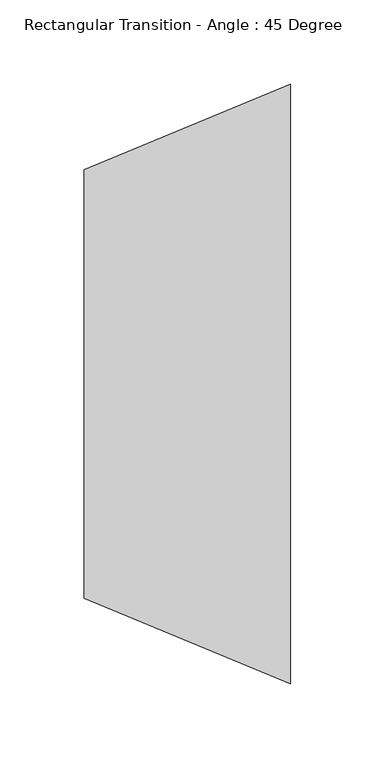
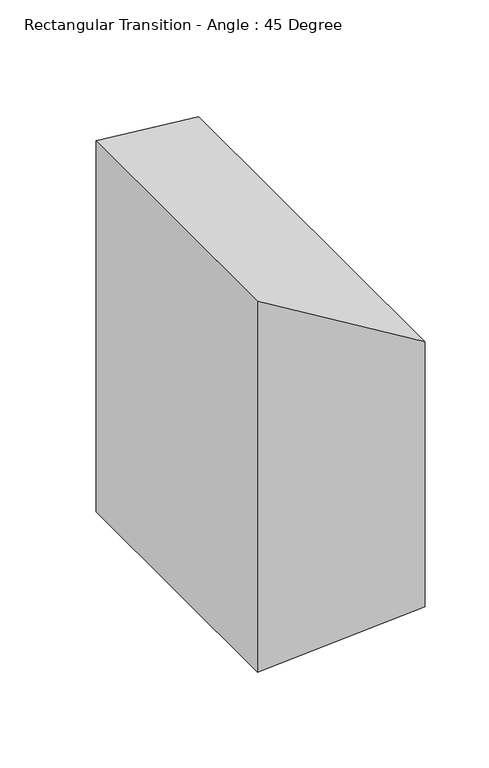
"""IFC4 building model written with IfcOpenShell, lengths in millimetres: duct fitting geometry, Rectangular Transition - Angle : 45 Degree."""

from ifc_helpers import new_model, si_unit, origin, place, context, project, spatial, faceted_brep, source, transform, mapped, element, save


def rectangular_transition_angle_45_degree_15636467(model_context):
    return source(origin(), model_context, "Body", "Brep", [
        faceted_brep([(122.642049, -177.8, 127.0), (122.642049, -177.8, -127.0), (122.642049, 177.8, -127.0), (122.642049, 177.8, 127.0), (0.0, -127.0, 177.8), (0.0, 127.0, 177.8), (0.0, 127.0, -177.8), (0.0, -127.0, -177.8)], [[[0, 1, 2, 3]], [[4, 5, 6, 7]], [[4, 7, 1, 0]], [[7, 6, 2, 1]], [[6, 5, 3, 2]], [[5, 4, 0, 3]]]),
    ])


if __name__ == "__main__":
    model = new_model("IFC4")
    model_context = context("Model", 3, world=origin())
    ifc_project = project(units=[si_unit("LENGTHUNIT", "METRE", prefix="MILLI")], contexts=[model_context])
    site = spatial("IfcSite", under=ifc_project)
    building = spatial("IfcBuilding", under=site)
    placement = place(None, origin())
    rectangular_transition_angle_45_degree_shape = rectangular_transition_angle_45_degree_15636467(model_context)
    element("IfcDuctFitting", 1, ObjectType="Rectangular Transition - Angle : 45 Degree", at=placement, inside=building, context=model_context, shape_type="MappedRepresentation", body=[
        mapped(rectangular_transition_angle_45_degree_shape, transform((0.0, 0.0, 0.0), x_axis=(1.0, 0.0, 0.0), y_axis=(0.0, 1.0, 0.0), z_axis=(0.0, 0.0, 1.0))),
    ])
    save(model, "model.ifc")
